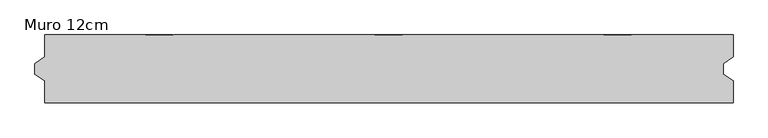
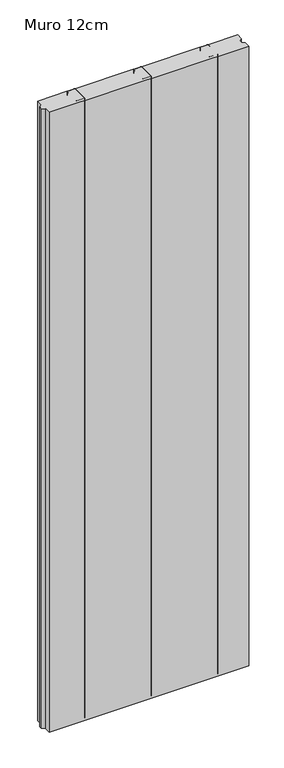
"""IFC4 building model written with IfcOpenShell, lengths in millimetres: plate geometry, Steelfoam Exterior : Muro 12cm."""

import ifcopenshell
import ifcopenshell.guid

model = None  # the IFC model being written
_history = None  # IfcOwnerHistory: only IFC2X3 demands one
_inside = {}  # id of a spatial element -> (the spatial element, [elements in it])
_under = {}  # id of a project, library or spatial element -> (it, [spatial elements below it])
_declared = {}  # id of a project -> (the project, [libraries it declares])
_typed = {}  # id of a type object -> (the type object, [elements of that type])
_made_of = {}  # id of a material, layer set ... -> (it, [elements and type objects made of it])


def new_model(schema):
    """Start an empty IFC model of exactly this schema.

    Asked for "IFC4X3", IfcOpenShell would pick the latest addendum, in which some entities
    have other attributes; the version numbers below select the first issue.
    IFC2X3 requires an IfcOwnerHistory on every rooted entity: one is made here for all.
    """
    global model, _history
    if schema == "IFC4X3":
        model = ifcopenshell.file(schema_version=(4, 3, 0, 0))
    else:
        model = ifcopenshell.file(schema=schema)
    _inside.clear()
    _under.clear()
    _declared.clear()
    _typed.clear()
    _made_of.clear()
    _history = None
    if model.schema == "IFC2X3":
        org = make("IfcOrganization", Name="unknown")
        user = make(
            "IfcPersonAndOrganization",
            ThePerson=make("IfcPerson", FamilyName="unknown"),
            TheOrganization=org,
        )
        app = make(
            "IfcApplication",
            ApplicationDeveloper=org,
            Version="unknown",
            ApplicationFullName="unknown",
            ApplicationIdentifier="unknown",
        )
        _history = make(
            "IfcOwnerHistory",
            OwningUser=user,
            OwningApplication=app,
            ChangeAction="ADDED",
            CreationDate=0,
        )
    return model


def make(cls, **values):
    """One entity of the class cls with the attributes given. An attribute that is None is left unset."""
    return model.create_entity(
        cls, **{name: value for name, value in values.items() if value is not None}
    )


def rooted(cls, **values):
    """An entity with a GlobalId (a new one), such as an element, a storey or a relation."""
    return make(cls, GlobalId=ifcopenshell.guid.new(), OwnerHistory=_history, **values)


def si_unit(unit_type, name, prefix=None):
    """IfcSIUnit, for example si_unit("LENGTHUNIT", "METRE", prefix="MILLI")."""
    return make("IfcSIUnit", UnitType=unit_type, Prefix=prefix, Name=name)


def assignment(units):
    """IfcUnitAssignment: the units of a project."""
    return None if units is None else make("IfcUnitAssignment", Units=units)


def point(xyz):
    """IfcCartesianPoint."""
    return None if xyz is None else make("IfcCartesianPoint", Coordinates=xyz)


def direction(xyz):
    """IfcDirection."""
    return None if xyz is None else make("IfcDirection", DirectionRatios=xyz)


def frame(location, z_axis=None, x_axis=None):
    """IfcAxis2Placement3D, a coordinate frame: its origin and axes. An axis left out is left unset."""
    return make(
        "IfcAxis2Placement3D",
        Location=point(location),
        Axis=direction(z_axis),
        RefDirection=direction(x_axis),
    )


def frame_2d(location, x_axis=None):
    """IfcAxis2Placement2D, a coordinate frame in the plane: its origin and x axis."""
    return make(
        "IfcAxis2Placement2D", Location=point(location), RefDirection=direction(x_axis)
    )


def origin():
    """The frame at (0, 0, 0) with its axes left unset."""
    return frame((0.0, 0.0, 0.0))


def origin_with_axes():
    """The frame at (0, 0, 0) with the z axis (0, 0, 1) and the x axis (1, 0, 0) written out."""
    return frame((0.0, 0.0, 0.0), z_axis=(0.0, 0.0, 1.0), x_axis=(1.0, 0.0, 0.0))


def place(relative_to, where):
    """IfcLocalPlacement: puts the frame where relative to a parent placement (None: the world)."""
    return make(
        "IfcLocalPlacement", PlacementRelTo=relative_to, RelativePlacement=where
    )


def context(
    kind, dimensions, precision=None, world=None, true_north=None, identifier=None
):
    """IfcGeometricRepresentationContext, for example the 3D "Model" context."""
    return make(
        "IfcGeometricRepresentationContext",
        ContextIdentifier=identifier,
        ContextType=kind,
        CoordinateSpaceDimension=dimensions,
        Precision=precision,
        WorldCoordinateSystem=world,
        TrueNorth=true_north,
    )


def project(units=None, contexts=None):
    """IfcProject with its units and contexts."""
    return rooted(
        "IfcProject",
        Name="project",
        RepresentationContexts=contexts,
        UnitsInContext=assignment(units),
    )


def spatial(cls, under=None, at=None, **own):
    """A site, building, storey or space (cls), placed at a placement, below another one or the project."""
    s = rooted(cls, ObjectPlacement=at, **own)
    if under is not None:
        _under.setdefault(under.id(), (under, []))[1].append(s)
    return s


def polyline(points):
    """IfcPolyline through the points."""
    return make("IfcPolyline", Points=[point(p) for p in points])


def circle_curve(where, radius):
    """IfcCircle in the frame where."""
    return make("IfcCircle", Position=where, Radius=radius)


def trimmed(basis, trim1, trim2, sense, master):
    """IfcTrimmedCurve: the piece of a basis curve between two trims."""
    return make(
        "IfcTrimmedCurve",
        BasisCurve=basis,
        Trim1=trim1,
        Trim2=trim2,
        SenseAgreement=sense,
        MasterRepresentation=master,
    )


def segment(curve, same_sense, transition):
    """IfcCompositeCurveSegment."""
    return make(
        "IfcCompositeCurveSegment",
        Transition=transition,
        SameSense=same_sense,
        ParentCurve=curve,
    )


def composite_curve(segments, self_intersect=None):
    """IfcCompositeCurve: segments joined end to end."""
    return make("IfcCompositeCurve", Segments=segments, SelfIntersect=self_intersect)


def outline(outer, holes=None, kind="AREA"):
    """IfcArbitraryClosedProfileDef: a profile drawn as a closed curve; with holes, ...WithVoids."""
    if holes is None:
        return make("IfcArbitraryClosedProfileDef", ProfileType=kind, OuterCurve=outer)
    return make(
        "IfcArbitraryProfileDefWithVoids",
        ProfileType=kind,
        OuterCurve=outer,
        InnerCurves=holes,
    )


def extrude(swept, where, along, depth):
    """IfcExtrudedAreaSolid: the profile swept, set in the frame where, extruded along a direction by depth."""
    return make(
        "IfcExtrudedAreaSolid",
        SweptArea=swept,
        Position=where,
        ExtrudedDirection=direction(along),
        Depth=depth,
    )


def shape(context_of_items, identifier, shape_type, items):
    """IfcShapeRepresentation: the items that make up one representation, for example the "Body"."""
    return make(
        "IfcShapeRepresentation",
        ContextOfItems=context_of_items,
        RepresentationIdentifier=identifier,
        RepresentationType=shape_type,
        Items=items,
    )


def source(mapping_origin, context_of_items, identifier, shape_type, items):
    """IfcRepresentationMap: a shape defined once, which mapped items show again and again."""
    return make(
        "IfcRepresentationMap",
        MappingOrigin=mapping_origin,
        MappedRepresentation=shape(context_of_items, identifier, shape_type, items),
    )


def transform(
    local_origin,
    x_axis=None,
    y_axis=None,
    z_axis=None,
    scale=None,
    scale2=None,
    scale3=None,
    uniform=True,
):
    """IfcCartesianTransformationOperator3D, or its non-uniform kind. x_axis, y_axis, z_axis: its Axis1, 2, 3."""
    if uniform:
        return make(
            "IfcCartesianTransformationOperator3D",
            Axis1=direction(x_axis),
            Axis2=direction(y_axis),
            LocalOrigin=point(local_origin),
            Scale=scale,
            Axis3=direction(z_axis),
        )
    return make(
        "IfcCartesianTransformationOperator3DnonUniform",
        Axis1=direction(x_axis),
        Axis2=direction(y_axis),
        LocalOrigin=point(local_origin),
        Scale=scale,
        Axis3=direction(z_axis),
        Scale2=scale2,
        Scale3=scale3,
    )


def mapped(mapping_source, mapping_target):
    """IfcMappedItem: shows the shape of a source again, moved by a transform."""
    return make(
        "IfcMappedItem", MappingSource=mapping_source, MappingTarget=mapping_target
    )


def made_of(thing, what):
    """Note that an element or type object is made of a material, layer set ...; save() writes the relation."""
    if what is not None:
        _made_of.setdefault(what.id(), (what, []))[1].append(thing)
    return thing


def element(
    cls,
    number,
    at=None,
    inside=None,
    cuts=None,
    type_object=None,
    material=None,
    context=None,
    identifier="Body",
    shape_type=None,
    held_by="IfcProductDefinitionShape",
    body=None,
    shapes=None,
    **own,
):
    """One element of the class cls, such as IfcWall. Its Tag is "e" and its number.

    at: its placement. inside: the storey or other place that contains it. cuts: it is an
    opening in that element (IfcRelVoidsElement). A single representation is given by context,
    identifier, shape_type and body (its items); several are given by shapes. held_by: the class
    of the entity that holds the representations. save() writes the other relations.
    """
    e = rooted(cls, Tag="e%d" % number, ObjectPlacement=at, **own)
    if body is not None:
        shapes = [shape(context, identifier, shape_type, body)]
    if shapes is not None:
        e.Representation = make(held_by, Representations=shapes)
    if inside is not None:
        _inside.setdefault(inside.id(), (inside, []))[1].append(e)
    if cuts is not None:
        rooted(
            "IfcRelVoidsElement", RelatingBuildingElement=cuts, RelatedOpeningElement=e
        )
    if type_object is not None:
        _typed.setdefault(type_object.id(), (type_object, []))[1].append(e)
    return made_of(e, material)


def aggregate(whole, parts):
    """IfcRelAggregates: a whole, such as a stair, and the parts it consists of."""
    return rooted("IfcRelAggregates", RelatingObject=whole, RelatedObjects=parts)


def save(model, path):
    """Write the relations noted so far, then the file.

    IfcRelAggregates (storeys below a building ...), IfcRelContainedInSpatialStructure (elements
    in a storey), IfcRelDefinesByType, IfcRelAssociatesMaterial and IfcRelDeclares: one each for
    every whole, place, type object, material and project.
    """
    for whole, parts in _under.values():
        aggregate(whole, parts)
    for where, things in _inside.values():
        rooted(
            "IfcRelContainedInSpatialStructure",
            RelatedElements=things,
            RelatingStructure=where,
        )
    for kind, things in _typed.values():
        rooted("IfcRelDefinesByType", RelatedObjects=things, RelatingType=kind)
    for what, things in _made_of.values():
        rooted("IfcRelAssociatesMaterial", RelatedObjects=things, RelatingMaterial=what)
    for by, libraries in _declared.values():
        rooted("IfcRelDeclares", RelatingContext=by, RelatedDefinitions=libraries)
    model.write(path)


def muro_12cm_0656d7b9(model_context):
    return source(origin(), model_context, "Body", "SweptSolid", [
        extrude(outline(polyline([(610.0, -120.0), (-610.0, -120.0), (-610.0, -81.6434349), (-627.6333408, -69.2964367), (-627.6333408, -50.7035633), (-610.0, -38.3565651), (-610.0, 0.0), (-432.4225297, 0.0), (-432.4225297, -0.8), (-381.6225297, -0.8), (-381.6225297, 0.0), (-26.4150776, 0.0), (-26.4150776, -0.8), (24.3849224, -0.8), (24.3849224, 0.0), (379.6603819, 0.0), (379.6603819, -0.8), (430.4603819, -0.8), (430.4603819, 0.0), (610.0, 0.0), (610.0, -38.3565651), (592.3666592, -50.7035633), (592.3666592, -69.2964367), (610.0, -81.6434349), (610.0, -120.0)])), origin_with_axes(), (0.0, 0.0, 1.0), 4000.0),
        extrude(outline(composite_curve([segment(trimmed(circle_curve(frame_2d((428.4603819, -99.6)), 2.0), [point((430.4603819, -99.6))], [point((428.4603819, -101.6))], False, "CARTESIAN"), True, "CONTINUOUS"), segment(polyline([(428.4603819, -101.6), (381.6603819, -101.6)]), True, "CONTINUOUS"), segment(trimmed(circle_curve(frame_2d((381.6603819, -99.6)), 2.0), [point((381.6603819, -101.6))], [point((379.6603819, -99.6))], False, "CARTESIAN"), True, "CONTINUOUS"), segment(polyline([(379.6603819, -99.6), (379.6603819, -2.0)]), True, "CONTINUOUS"), segment(trimmed(circle_curve(frame_2d((381.6603819, -2.0)), 2.0), [point((379.6603819, -2.0))], [point((381.6603819, 0.0))], False, "CARTESIAN"), True, "CONTINUOUS"), segment(polyline([(381.6603819, 0.0), (428.4603819, 0.0)]), True, "CONTINUOUS"), segment(trimmed(circle_curve(frame_2d((428.4603819, -2.0)), 2.0), [point((428.4603819, 0.0))], [point((430.4603819, -2.0))], False, "CARTESIAN"), True, "CONTINUOUS"), segment(polyline([(430.4603819, -2.0), (430.4603819, -15.0), (429.6603819, -15.0), (429.6603819, -2.0)]), True, "CONTINUOUS"), segment(trimmed(circle_curve(frame_2d((428.3603819, -2.0)), 1.3), [point((429.6603819, -2.0))], [point((428.3603819, -0.7))], True, "CARTESIAN"), True, "CONTINUOUS"), segment(polyline([(428.3603819, -0.7), (381.6603819, -0.7)]), True, "CONTINUOUS"), segment(trimmed(circle_curve(frame_2d((381.6603819, -2.0)), 1.3), [point((381.6603819, -0.7))], [point((380.3603819, -2.0))], True, "CARTESIAN"), True, "CONTINUOUS"), segment(polyline([(380.3603819, -2.0), (380.3603819, -99.6)]), True, "CONTINUOUS"), segment(trimmed(circle_curve(frame_2d((381.6603819, -99.6)), 1.3), [point((380.3603819, -99.6))], [point((381.6603819, -100.9))], True, "CARTESIAN"), True, "CONTINUOUS"), segment(polyline([(381.6603819, -100.9), (428.3603819, -100.9)]), True, "CONTINUOUS"), segment(trimmed(circle_curve(frame_2d((428.3603819, -99.6)), 1.3), [point((428.3603819, -100.9))], [point((429.6603819, -99.6))], True, "CARTESIAN"), True, "CONTINUOUS"), segment(polyline([(429.6603819, -99.6), (429.6603819, -86.6), (430.4603819, -86.6), (430.4603819, -99.6)]), True, "CONTINUOUS")], self_intersect=False)), origin_with_axes(), (0.0, 0.0, 1.0), 4000.0),
        extrude(outline(composite_curve([segment(polyline([(-26.4150776, -99.6), (-26.4150776, -86.6), (-25.6150776, -86.6), (-25.6150776, -99.6)]), True, "CONTINUOUS"), segment(trimmed(circle_curve(frame_2d((-24.3150776, -99.6)), 1.3), [point((-25.6150776, -99.6))], [point((-24.3150776, -100.9))], True, "CARTESIAN"), True, "CONTINUOUS"), segment(polyline([(-24.3150776, -100.9), (22.3849224, -100.9)]), True, "CONTINUOUS"), segment(trimmed(circle_curve(frame_2d((22.3849224, -99.6)), 1.3), [point((22.3849224, -100.9))], [point((23.6849224, -99.6))], True, "CARTESIAN"), True, "CONTINUOUS"), segment(polyline([(23.6849224, -99.6), (23.6849224, -2.0)]), True, "CONTINUOUS"), segment(trimmed(circle_curve(frame_2d((22.3849224, -2.0)), 1.3), [point((23.6849224, -2.0))], [point((22.3849224, -0.7))], True, "CARTESIAN"), True, "CONTINUOUS"), segment(polyline([(22.3849224, -0.7), (-24.3150776, -0.7)]), True, "CONTINUOUS"), segment(trimmed(circle_curve(frame_2d((-24.3150776, -2.0)), 1.3), [point((-24.3150776, -0.7))], [point((-25.6150776, -2.0))], True, "CARTESIAN"), True, "CONTINUOUS"), segment(polyline([(-25.6150776, -2.0), (-25.6150776, -15.0), (-26.4150776, -15.0), (-26.4150776, -2.0)]), True, "CONTINUOUS"), segment(trimmed(circle_curve(frame_2d((-24.4150776, -2.0)), 2.0), [point((-26.4150776, -2.0))], [point((-24.4150776, 0.0))], False, "CARTESIAN"), True, "CONTINUOUS"), segment(polyline([(-24.4150776, 0.0), (22.3849224, 0.0)]), True, "CONTINUOUS"), segment(trimmed(circle_curve(frame_2d((22.3849224, -2.0)), 2.0), [point((22.3849224, 0.0))], [point((24.3849224, -2.0))], False, "CARTESIAN"), True, "CONTINUOUS"), segment(polyline([(24.3849224, -2.0), (24.3849224, -99.6)]), True, "CONTINUOUS"), segment(trimmed(circle_curve(frame_2d((22.3849224, -99.6)), 2.0), [point((24.3849224, -99.6))], [point((22.3849224, -101.6))], False, "CARTESIAN"), True, "CONTINUOUS"), segment(polyline([(22.3849224, -101.6), (-24.4150776, -101.6)]), True, "CONTINUOUS"), segment(trimmed(circle_curve(frame_2d((-24.4150776, -99.6)), 2.0), [point((-24.4150776, -101.6))], [point((-26.4150776, -99.6))], False, "CARTESIAN"), True, "CONTINUOUS")], self_intersect=False)), origin_with_axes(), (0.0, 0.0, 1.0), 4000.0),
        extrude(outline(composite_curve([segment(polyline([(-432.4225297, -99.6), (-432.4225297, -86.6), (-431.6225297, -86.6), (-431.6225297, -99.6)]), True, "CONTINUOUS"), segment(trimmed(circle_curve(frame_2d((-430.3225297, -99.6)), 1.3), [point((-431.6225297, -99.6))], [point((-430.3225297, -100.9))], True, "CARTESIAN"), True, "CONTINUOUS"), segment(polyline([(-430.3225297, -100.9), (-383.6225297, -100.9)]), True, "CONTINUOUS"), segment(trimmed(circle_curve(frame_2d((-383.6225297, -99.6)), 1.3), [point((-383.6225297, -100.9))], [point((-382.3225297, -99.6))], True, "CARTESIAN"), True, "CONTINUOUS"), segment(polyline([(-382.3225297, -99.6), (-382.3225297, -2.0)]), True, "CONTINUOUS"), segment(trimmed(circle_curve(frame_2d((-383.6225297, -2.0)), 1.3), [point((-382.3225297, -2.0))], [point((-383.6225297, -0.7))], True, "CARTESIAN"), True, "CONTINUOUS"), segment(polyline([(-383.6225297, -0.7), (-430.3225297, -0.7)]), True, "CONTINUOUS"), segment(trimmed(circle_curve(frame_2d((-430.3225297, -2.0)), 1.3), [point((-430.3225297, -0.7))], [point((-431.6225297, -2.0))], True, "CARTESIAN"), True, "CONTINUOUS"), segment(polyline([(-431.6225297, -2.0), (-431.6225297, -15.0), (-432.4225297, -15.0), (-432.4225297, -2.0)]), True, "CONTINUOUS"), segment(trimmed(circle_curve(frame_2d((-430.4225297, -2.0)), 2.0), [point((-432.4225297, -2.0))], [point((-430.4225297, 0.0))], False, "CARTESIAN"), True, "CONTINUOUS"), segment(polyline([(-430.4225297, 0.0), (-383.6225297, 0.0)]), True, "CONTINUOUS"), segment(trimmed(circle_curve(frame_2d((-383.6225297, -2.0)), 2.0), [point((-383.6225297, 0.0))], [point((-381.6225297, -2.0))], False, "CARTESIAN"), True, "CONTINUOUS"), segment(polyline([(-381.6225297, -2.0), (-381.6225297, -99.6)]), True, "CONTINUOUS"), segment(trimmed(circle_curve(frame_2d((-383.6225297, -99.6)), 2.0), [point((-381.6225297, -99.6))], [point((-383.6225297, -101.6))], False, "CARTESIAN"), True, "CONTINUOUS"), segment(polyline([(-383.6225297, -101.6), (-430.4225297, -101.6)]), True, "CONTINUOUS"), segment(trimmed(circle_curve(frame_2d((-430.4225297, -99.6)), 2.0), [point((-430.4225297, -101.6))], [point((-432.4225297, -99.6))], False, "CARTESIAN"), True, "CONTINUOUS")], self_intersect=False)), origin_with_axes(), (0.0, 0.0, 1.0), 4000.0),
    ])


if __name__ == "__main__":
    model = new_model("IFC4")
    model_context = context("Model", 3, world=origin())
    ifc_project = project(units=[si_unit("LENGTHUNIT", "METRE", prefix="MILLI")], contexts=[model_context])
    site = spatial("IfcSite", under=ifc_project)
    building = spatial("IfcBuilding", under=site)
    placement = place(None, origin())
    muro_12cm_shape = muro_12cm_0656d7b9(model_context)
    element("IfcPlate", 1, ObjectType="Steelfoam Exterior : Muro 12cm", at=placement, inside=building, context=model_context, shape_type="MappedRepresentation", body=[
        mapped(muro_12cm_shape, transform((0.0, 0.0, 0.0), x_axis=(1.0, 0.0, 0.0), y_axis=(0.0, 1.0, 0.0), z_axis=(0.0, 0.0, 1.0))),
    ])
    save(model, "model.ifc")
